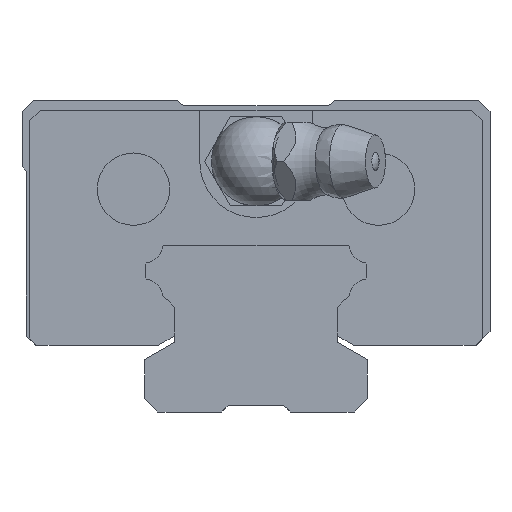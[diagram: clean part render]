
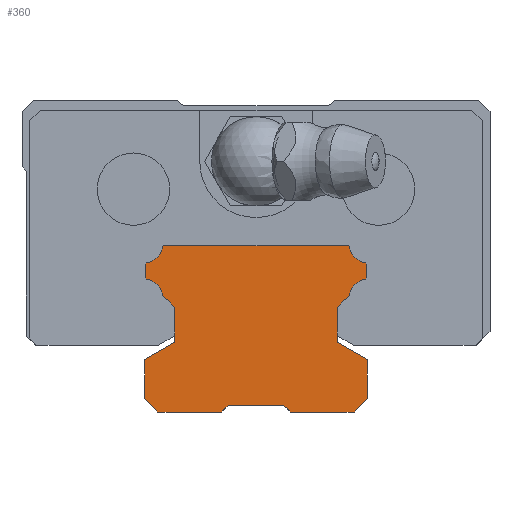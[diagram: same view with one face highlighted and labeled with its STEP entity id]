
A CAD part, front view. The second image highlights one B-rep face of the part: STEP entity #360.
In plain terms, the highlighted planar face has unit normal (0, -1, 0).
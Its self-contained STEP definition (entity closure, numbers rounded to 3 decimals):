
#360=ADVANCED_FACE('',(#626),#495,.T.);
#495=PLANE('',#3149);
#626=FACE_OUTER_BOUND('',#800,.T.);
#800=EDGE_LOOP('',(#1522,#1523,#1524,#1525,#1526,#1527,#1528,#1529,#1530,
#1531,#1532,#1533,#1534,#1535,#1536,#1537,#1538,#1539,#1540,#1541,#1542,
#1543,#1544,#1545,#1546,#1547,#1548,#1549));
#911=CIRCLE('',#3107,1.8);
#913=CIRCLE('',#3113,1.8);
#916=CIRCLE('',#3139,1.8);
#918=CIRCLE('',#3145,1.8);
#1522=ORIENTED_EDGE('',*,*,#2210,.T.);
#1523=ORIENTED_EDGE('',*,*,#2304,.T.);
#1524=ORIENTED_EDGE('',*,*,#2301,.T.);
#1525=ORIENTED_EDGE('',*,*,#2298,.T.);
#1526=ORIENTED_EDGE('',*,*,#2295,.F.);
#1527=ORIENTED_EDGE('',*,*,#2292,.F.);
#1528=ORIENTED_EDGE('',*,*,#2289,.T.);
#1529=ORIENTED_EDGE('',*,*,#2283,.T.);
#1530=ORIENTED_EDGE('',*,*,#2277,.T.);
#1531=ORIENTED_EDGE('',*,*,#2272,.F.);
#1532=ORIENTED_EDGE('',*,*,#2269,.T.);
#1533=ORIENTED_EDGE('',*,*,#2266,.F.);
#1534=ORIENTED_EDGE('',*,*,#2263,.F.);
#1535=ORIENTED_EDGE('',*,*,#2260,.F.);
#1536=ORIENTED_EDGE('',*,*,#2257,.F.);
#1537=ORIENTED_EDGE('',*,*,#2254,.F.);
#1538=ORIENTED_EDGE('',*,*,#2251,.F.);
#1539=ORIENTED_EDGE('',*,*,#2248,.F.);
#1540=ORIENTED_EDGE('',*,*,#2245,.T.);
#1541=ORIENTED_EDGE('',*,*,#2242,.F.);
#1542=ORIENTED_EDGE('',*,*,#2239,.T.);
#1543=ORIENTED_EDGE('',*,*,#2236,.F.);
#1544=ORIENTED_EDGE('',*,*,#2228,.F.);
#1545=ORIENTED_EDGE('',*,*,#2318,.F.);
#1546=ORIENTED_EDGE('',*,*,#2315,.F.);
#1547=ORIENTED_EDGE('',*,*,#2312,.T.);
#1548=ORIENTED_EDGE('',*,*,#2309,.T.);
#1549=ORIENTED_EDGE('',*,*,#2306,.F.);
#1878=VERTEX_POINT('',#4440);
#1879=VERTEX_POINT('',#4442);
#1896=VERTEX_POINT('',#4482);
#1897=VERTEX_POINT('',#4483);
#1904=VERTEX_POINT('',#4499);
#1906=VERTEX_POINT('',#4505);
#1908=VERTEX_POINT('',#4511);
#1910=VERTEX_POINT('',#4517);
#1912=VERTEX_POINT('',#4523);
#1914=VERTEX_POINT('',#4529);
#1916=VERTEX_POINT('',#4535);
#1918=VERTEX_POINT('',#4541);
#1920=VERTEX_POINT('',#4547);
#1922=VERTEX_POINT('',#4553);
#1924=VERTEX_POINT('',#4559);
#1926=VERTEX_POINT('',#4565);
#1928=VERTEX_POINT('',#4571);
#1930=VERTEX_POINT('',#4579);
#1933=VERTEX_POINT('',#4589);
#1934=VERTEX_POINT('',#4597);
#1936=VERTEX_POINT('',#4603);
#1938=VERTEX_POINT('',#4609);
#1940=VERTEX_POINT('',#4615);
#1942=VERTEX_POINT('',#4621);
#1944=VERTEX_POINT('',#4630);
#1946=VERTEX_POINT('',#4636);
#1948=VERTEX_POINT('',#4642);
#1950=VERTEX_POINT('',#4648);
#2210=EDGE_CURVE('',#1879,#1878,#2567,.T.);
#2228=EDGE_CURVE('',#1896,#1897,#2578,.T.);
#2236=EDGE_CURVE('',#1897,#1904,#2582,.T.);
#2239=EDGE_CURVE('',#1906,#1904,#2585,.T.);
#2242=EDGE_CURVE('',#1906,#1908,#911,.T.);
#2245=EDGE_CURVE('',#1910,#1908,#2589,.T.);
#2248=EDGE_CURVE('',#1910,#1912,#2592,.T.);
#2251=EDGE_CURVE('',#1912,#1914,#2595,.T.);
#2254=EDGE_CURVE('',#1914,#1916,#913,.T.);
#2257=EDGE_CURVE('',#1916,#1918,#2599,.T.);
#2260=EDGE_CURVE('',#1918,#1920,#2602,.T.);
#2263=EDGE_CURVE('',#1920,#1922,#2605,.T.);
#2266=EDGE_CURVE('',#1922,#1924,#2608,.T.);
#2269=EDGE_CURVE('',#1926,#1924,#2611,.T.);
#2272=EDGE_CURVE('',#1926,#1928,#2614,.T.);
#2277=EDGE_CURVE('',#1930,#1928,#2618,.T.);
#2283=EDGE_CURVE('',#1933,#1930,#2620,.T.);
#2289=EDGE_CURVE('',#1934,#1933,#2622,.T.);
#2292=EDGE_CURVE('',#1934,#1936,#2625,.T.);
#2295=EDGE_CURVE('',#1936,#1938,#2628,.T.);
#2298=EDGE_CURVE('',#1940,#1938,#2631,.T.);
#2301=EDGE_CURVE('',#1942,#1940,#2634,.T.);
#2304=EDGE_CURVE('',#1878,#1942,#2637,.T.);
#2306=EDGE_CURVE('',#1879,#1944,#916,.T.);
#2309=EDGE_CURVE('',#1946,#1944,#2640,.T.);
#2312=EDGE_CURVE('',#1948,#1946,#2643,.T.);
#2315=EDGE_CURVE('',#1948,#1950,#2646,.T.);
#2318=EDGE_CURVE('',#1950,#1896,#918,.T.);
#2567=LINE('',#4441,#2851);
#2578=LINE('',#4481,#2862);
#2582=LINE('',#4498,#2866);
#2585=LINE('',#4504,#2869);
#2589=LINE('',#4516,#2873);
#2592=LINE('',#4522,#2876);
#2595=LINE('',#4528,#2879);
#2599=LINE('',#4540,#2883);
#2602=LINE('',#4546,#2886);
#2605=LINE('',#4552,#2889);
#2608=LINE('',#4558,#2892);
#2611=LINE('',#4564,#2895);
#2614=LINE('',#4570,#2898);
#2618=LINE('',#4578,#2902);
#2620=LINE('',#4588,#2904);
#2622=LINE('',#4596,#2906);
#2625=LINE('',#4602,#2909);
#2628=LINE('',#4608,#2912);
#2631=LINE('',#4614,#2915);
#2634=LINE('',#4620,#2918);
#2637=LINE('',#4626,#2921);
#2640=LINE('',#4635,#2924);
#2643=LINE('',#4641,#2927);
#2646=LINE('',#4647,#2930);
#2851=VECTOR('',#3625,1.);
#2862=VECTOR('',#3660,1.);
#2866=VECTOR('',#3674,1.);
#2869=VECTOR('',#3679,1.);
#2873=VECTOR('',#3691,1.);
#2876=VECTOR('',#3696,1.);
#2879=VECTOR('',#3701,1.);
#2883=VECTOR('',#3713,1.);
#2886=VECTOR('',#3718,1.);
#2889=VECTOR('',#3723,1.);
#2892=VECTOR('',#3728,1.);
#2895=VECTOR('',#3733,1.);
#2898=VECTOR('',#3738,1.);
#2902=VECTOR('',#3746,1.);
#2904=VECTOR('',#3758,1.);
#2906=VECTOR('',#3770,1.);
#2909=VECTOR('',#3775,1.);
#2912=VECTOR('',#3780,1.);
#2915=VECTOR('',#3785,1.);
#2918=VECTOR('',#3790,1.);
#2921=VECTOR('',#3795,1.);
#2924=VECTOR('',#3806,1.);
#2927=VECTOR('',#3811,1.);
#2930=VECTOR('',#3816,1.);
#3107=AXIS2_PLACEMENT_3D('',#4510,#3684,#3685);
#3113=AXIS2_PLACEMENT_3D('',#4534,#3706,#3707);
#3139=AXIS2_PLACEMENT_3D('',#4629,#3799,#3800);
#3145=AXIS2_PLACEMENT_3D('',#4653,#3821,#3822);
#3149=AXIS2_PLACEMENT_3D('',#4657,#3829,#3830);
#3625=DIRECTION('',(0.707,0.,-0.707));
#3660=DIRECTION('',(0.707,0.,0.707));
#3674=DIRECTION('',(1.,0.,0.));
#3679=DIRECTION('',(-0.707,0.,0.707));
#3684=DIRECTION('',(0.,-1.,0.));
#3685=DIRECTION('',(1.,0.,0.));
#3691=DIRECTION('',(-0.707,0.,0.707));
#3696=DIRECTION('',(0.,0.,-1.));
#3701=DIRECTION('',(-0.707,0.,-0.707));
#3706=DIRECTION('',(0.,-1.,0.));
#3707=DIRECTION('',(1.,0.,0.));
#3713=DIRECTION('',(-0.707,0.,-0.707));
#3718=DIRECTION('',(0.,0.,-1.));
#3723=DIRECTION('',(0.866,0.,-0.5));
#3728=DIRECTION('',(0.,0.,-1.));
#3733=DIRECTION('',(0.707,0.,0.707));
#3738=DIRECTION('',(-1.,0.,0.));
#3746=DIRECTION('',(0.707,0.,-0.707));
#3758=DIRECTION('',(1.,0.,0.));
#3770=DIRECTION('',(0.707,0.,0.707));
#3775=DIRECTION('',(-1.,0.,0.));
#3780=DIRECTION('',(-0.707,0.,0.707));
#3785=DIRECTION('',(0.,0.,-1.));
#3790=DIRECTION('',(-0.866,0.,-0.5));
#3795=DIRECTION('',(0.,0.,-1.));
#3799=DIRECTION('',(0.,-1.,0.));
#3800=DIRECTION('',(1.,0.,0.));
#3806=DIRECTION('',(0.707,0.,-0.707));
#3811=DIRECTION('',(0.,0.,-1.));
#3816=DIRECTION('',(0.707,0.,0.707));
#3821=DIRECTION('',(0.,-1.,0.));
#3822=DIRECTION('',(1.,0.,0.));
#3829=DIRECTION('',(0.,-1.,0.));
#3830=DIRECTION('',(0.,0.,-1.));
#4440=CARTESIAN_POINT('',(-7.3,-110.,8.796));
#4441=CARTESIAN_POINT('',(-8.372,-110.,9.868));
#4442=CARTESIAN_POINT('',(-8.372,-110.,9.868));
#4481=CARTESIAN_POINT('',(-8.372,-110.,14.232));
#4482=CARTESIAN_POINT('',(-8.372,-110.,14.232));
#4483=CARTESIAN_POINT('',(-8.274,-110.,14.33));
#4498=CARTESIAN_POINT('',(0.,-110.,14.33));
#4499=CARTESIAN_POINT('',(8.274,-110.,14.33));
#4504=CARTESIAN_POINT('',(8.372,-110.,14.232));
#4505=CARTESIAN_POINT('',(8.372,-110.,14.232));
#4510=CARTESIAN_POINT('',(10.145,-110.,14.545));
#4511=CARTESIAN_POINT('',(9.832,-110.,12.772));
#4516=CARTESIAN_POINT('',(9.93,-110.,12.674));
#4517=CARTESIAN_POINT('',(9.93,-110.,12.674));
#4522=CARTESIAN_POINT('',(9.93,-110.,12.674));
#4523=CARTESIAN_POINT('',(9.93,-110.,11.426));
#4528=CARTESIAN_POINT('',(9.93,-110.,11.426));
#4529=CARTESIAN_POINT('',(9.832,-110.,11.328));
#4534=CARTESIAN_POINT('',(10.145,-110.,9.555));
#4535=CARTESIAN_POINT('',(8.372,-110.,9.868));
#4540=CARTESIAN_POINT('',(8.372,-110.,9.868));
#4541=CARTESIAN_POINT('',(7.3,-110.,8.796));
#4546=CARTESIAN_POINT('',(7.3,-110.,6.236));
#4547=CARTESIAN_POINT('',(7.3,-110.,5.659));
#4552=CARTESIAN_POINT('',(7.3,-110.,5.659));
#4553=CARTESIAN_POINT('',(10.,-110.,4.1));
#4558=CARTESIAN_POINT('',(10.,-110.,4.1));
#4559=CARTESIAN_POINT('',(10.,-110.,0.6));
#4564=CARTESIAN_POINT('',(8.8,-110.,-0.6));
#4565=CARTESIAN_POINT('',(8.8,-110.,-0.6));
#4570=CARTESIAN_POINT('',(8.8,-110.,-0.6));
#4571=CARTESIAN_POINT('',(3.1,-110.,-0.6));
#4578=CARTESIAN_POINT('',(2.5,-110.,0.));
#4579=CARTESIAN_POINT('',(2.5,-110.,0.));
#4588=CARTESIAN_POINT('',(-2.5,-110.,0.));
#4589=CARTESIAN_POINT('',(-2.5,-110.,0.));
#4596=CARTESIAN_POINT('',(-3.1,-110.,-0.6));
#4597=CARTESIAN_POINT('',(-3.1,-110.,-0.6));
#4602=CARTESIAN_POINT('',(-3.1,-110.,-0.6));
#4603=CARTESIAN_POINT('',(-8.8,-110.,-0.6));
#4608=CARTESIAN_POINT('',(-8.8,-110.,-0.6));
#4609=CARTESIAN_POINT('',(-10.,-110.,0.6));
#4614=CARTESIAN_POINT('',(-10.,-110.,4.1));
#4615=CARTESIAN_POINT('',(-10.,-110.,4.1));
#4620=CARTESIAN_POINT('',(-7.3,-110.,5.659));
#4621=CARTESIAN_POINT('',(-7.3,-110.,5.659));
#4626=CARTESIAN_POINT('',(-7.3,-110.,6.236));
#4629=CARTESIAN_POINT('',(-10.145,-110.,9.555));
#4630=CARTESIAN_POINT('',(-9.832,-110.,11.328));
#4635=CARTESIAN_POINT('',(-9.93,-110.,11.426));
#4636=CARTESIAN_POINT('',(-9.93,-110.,11.426));
#4641=CARTESIAN_POINT('',(-9.93,-110.,12.674));
#4642=CARTESIAN_POINT('',(-9.93,-110.,12.674));
#4647=CARTESIAN_POINT('',(-9.93,-110.,12.674));
#4648=CARTESIAN_POINT('',(-9.832,-110.,12.772));
#4653=CARTESIAN_POINT('',(-10.145,-110.,14.545));
#4657=CARTESIAN_POINT('',(10.145,-110.,14.545));
